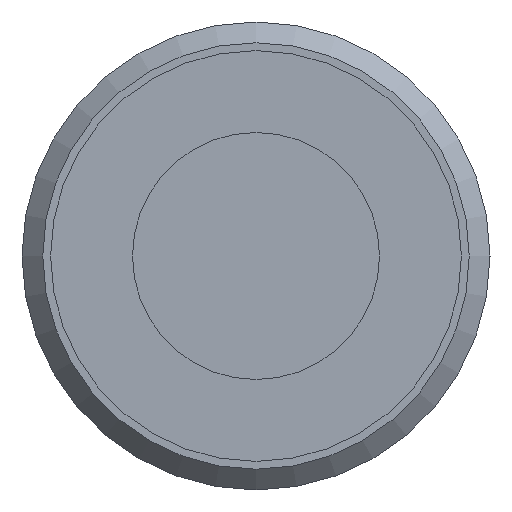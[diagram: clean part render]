
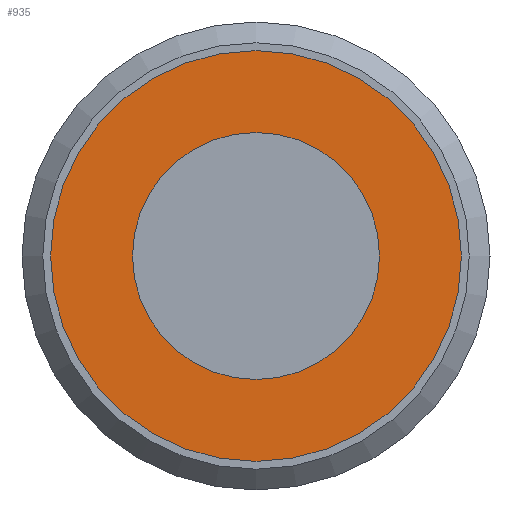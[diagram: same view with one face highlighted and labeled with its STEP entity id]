
A CAD part, left-side view. The second image highlights one B-rep face of the part: STEP entity #935.
In plain terms, the highlighted planar face has unit normal (-1, 0, 0).
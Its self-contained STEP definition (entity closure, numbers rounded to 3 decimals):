
#59=PLANE('',#999);
#76=ORIENTED_EDGE('',*,*,#202,.T.);
#77=ORIENTED_EDGE('',*,*,#201,.T.);
#201=EDGE_CURVE('',#264,#264,#320,.T.);
#202=EDGE_CURVE('',#265,#265,#321,.T.);
#264=VERTEX_POINT('',#1329);
#265=VERTEX_POINT('',#1332);
#320=CIRCLE('',#998,7.9);
#321=CIRCLE('',#1000,4.75);
#372=EDGE_LOOP('',(#76));
#373=EDGE_LOOP('',(#77));
#471=FACE_BOUND('',#372,.T.);
#472=FACE_BOUND('',#373,.T.);
#935=ADVANCED_FACE('',(#471,#472),#59,.T.);
#998=AXIS2_PLACEMENT_3D('',#1328,#1108,#1109);
#999=AXIS2_PLACEMENT_3D('',#1330,#1110,#1111);
#1000=AXIS2_PLACEMENT_3D('',#1331,#1112,#1113);
#1108=DIRECTION('',(-1.,0.,0.));
#1109=DIRECTION('',(0.,1.,0.));
#1110=DIRECTION('',(-1.,0.,0.));
#1111=DIRECTION('',(0.,0.,1.));
#1112=DIRECTION('',(1.,0.,0.));
#1113=DIRECTION('',(0.,-1.,0.));
#1328=CARTESIAN_POINT('',(-1.,0.,0.));
#1329=CARTESIAN_POINT('',(-1.,7.9,0.));
#1330=CARTESIAN_POINT('',(-1.,0.,0.));
#1331=CARTESIAN_POINT('',(-1.,0.,0.));
#1332=CARTESIAN_POINT('',(-1.,-4.75,0.));
